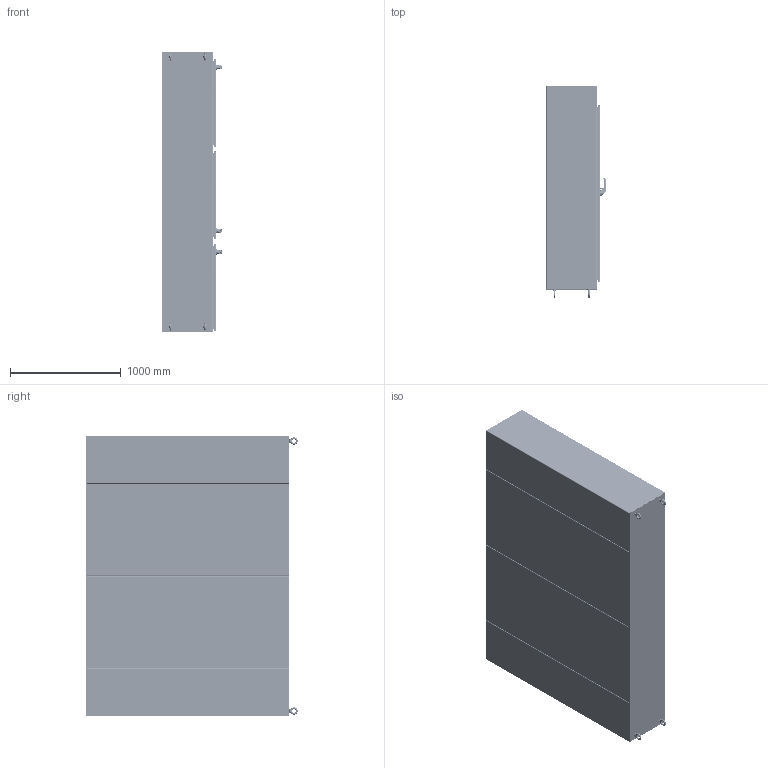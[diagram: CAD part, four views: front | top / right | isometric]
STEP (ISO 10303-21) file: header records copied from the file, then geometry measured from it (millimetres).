
FILE_DESCRIPTION((''),'2;1');
FILE_NAME('MODEL-219_ASM','2025-04-01T14:00:22',('andrew.knowlton'),('SAGINAW CONTROL & ENGINEERING'),'CREO PARAMETRIC BY PTC INC, 2021284','CREO PARAMETRIC BY PTC INC, 2021284','');
FILE_SCHEMA(('AUTOMOTIVE_DESIGN { 1 0 10303 214 1 1 1 1 }'));
Length unit declared in the file: inch
Products named in the file (162): MODEL-219-TP; MODEL-219-R-SD; MODEL-219-L-SD; MODEL-219-BTM; MODEL-219-R-BCK; MODEL-219-L-BCK; 128003; 100028; 128003_ASM; 127619; 127619_ASM; MODEL-219-RH-CCA-CHNL; MODEL-219-RH-CCA-STIF; 100062; 128004; 128007; 102535; 100057; MODEL-219-RH-CCASSY_ASM; MODEL-219-LH-CCA-CHNL; MODEL-219-LH-CCA-STIF; 127618; 127617; MODEL-219-LH-CCASSY_ASM; MODEL-219-M-DR; 100837; 111267; 100882; 100953_SCREW_MTG; 100953_PADLOCK_CATCH; 100953_SCREW_LARGE; 100953_INSERT_SHAFT; 100953_INSERT_PCH; 100953_GASKET; 100953_O-RING; 100953_BASE; 100953_SPRING; 100953_HANDLE; 100953_CAM_SHAFT; 100953_HANDLE_ASM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
Assembly tree (419 placements, depth 5):
  MODEL-219_ASM
    MODEL-219-TP
    MODEL-219-R-SD
    MODEL-219-L-SD
    MODEL-219-BTM
    MODEL-219-R-BCK
    MODEL-219-L-BCK
    128003_ASM  x2
      128003
      100028
    127619_ASM  x2
      127619
      100028
    MODEL-219-RH-CCASSY_ASM
      MODEL-219-RH-CCA-CHNL
      MODEL-219-RH-CCA-STIF
      100062  x2
      128004  x2
      128007  x2
      102535  x8
      100057  x2
    MODEL-219-LH-CCASSY_ASM
      MODEL-219-LH-CCA-CHNL
      MODEL-219-LH-CCA-STIF
      100062  x2
      127618  x2
      127617  x2
      102535  x8
    MODEL-219-M-DOOR-ASSY_ASM
      MODEL-219-M-DR
      100837  x7
      111267
      100882  x12
      100953_ASM
        100953_SCREW_MTG
        100953_PADLOCK_CATCH
        100953_SCREW_LARGE  x2
        100953_INSERT_SHAFT
        100953_INSERT_PCH
        100953_GASKET
        100953_O-RING
        100953_BASE
        100953_SPRING
        100953_HANDLE_ASM
          100953_HANDLE
          100953_CAM_SHAFT
        100953_CAM_ADAPTER
        100953_EARTH_NUT
        100953_FLANGE_NUT
        100953_CAM_NUT
        100953_CP_INSERT
        100953_SPRING_CAM
        100953_TORSION_SPRING
        100953_SCREW_INSERT
      102237_ASM
        102237
        100030  x2
      MODEL-219-ROD-UPR-MD_ASM
        MODEL-219-ROD-UPR-MD
        128146
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Bounding box: 535.27 x 1903.6 x 2527.3 mm (x, y, z)
Volume: 60799217.7 mm3; surface area: 39773677.6 mm2
Topology: 494 solids, 494 shells, 38360 faces, 97463 edges, 60051 vertices
Faces by surface type: plane 13569, cylinder 10064, bspline 8689, torus 2746, cone 2160, sphere 1042, extrusion 90
Entity records: 708914 total; most frequent: CARTESIAN_POINT 280845, ORIENTED_EDGE 65366, DIRECTION 60393, PRESENTATION_STYLE_ASSIGNMENT 32870, STYLED_ITEM 32841, CURVE_STYLE 32683, EDGE_CURVE 32683, AXIS2_PLACEMENT_3D 22264
